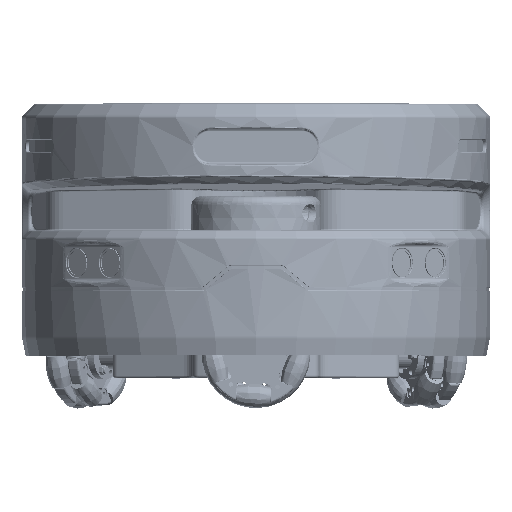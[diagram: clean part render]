
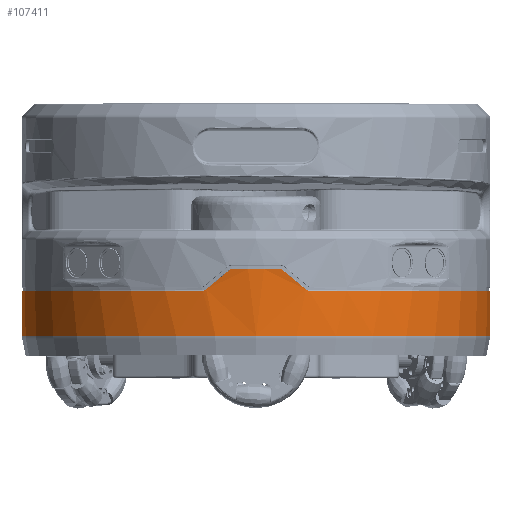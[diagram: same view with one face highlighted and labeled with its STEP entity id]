
A CAD part, top view. The second image highlights one B-rep face of the part: STEP entity #107411.
In plain terms, the highlighted cylindrical face has radius 130 mm (diameter 260 mm), a partial arc.
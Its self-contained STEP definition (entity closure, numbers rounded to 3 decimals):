
#16 = CARTESIAN_POINT ( 'NONE',  ( 28.973, 35.962, -136.731 ) ) ;
#1580 = CARTESIAN_POINT ( 'NONE',  ( 130., 140., -10. ) ) ;
#3205 = DIRECTION ( 'NONE',  ( 0., -1., 0. ) ) ;
#3595 = DIRECTION ( 'NONE',  ( 0., -1., 0. ) ) ;
#5339 = VERTEX_POINT ( 'NONE', #183656 ) ;
#5976 = ORIENTED_EDGE ( 'NONE', *, *, #178640, .T. ) ;
#13644 = CARTESIAN_POINT ( 'NONE',  ( 29.688, 35.9, -136.565 ) ) ;
#18030 = CARTESIAN_POINT ( 'NONE',  ( -13.19, 47.9, -139.329 ) ) ;
#21204 = CIRCLE ( 'NONE', #186558, 130. ) ;
#21350 = DIRECTION ( 'NONE',  ( 1., 0., 0. ) ) ;
#21578 = ORIENTED_EDGE ( 'NONE', *, *, #79940, .T. ) ;
#22169 = DIRECTION ( 'NONE',  ( 0., -1., 0. ) ) ;
#27352 = EDGE_CURVE ( 'NONE', #213831, #201945, #136599, .T. ) ;
#27934 = CIRCLE ( 'NONE', #37007, 130. ) ;
#31535 = CARTESIAN_POINT ( 'NONE',  ( 27.694, 36.625, -137.016 ) ) ;
#32595 = CARTESIAN_POINT ( 'NONE',  ( 27.975, 36.389, -136.955 ) ) ;
#36408 = CARTESIAN_POINT ( 'NONE',  ( -23.517, 40.127, -137.927 ) ) ;
#36630 = ORIENTED_EDGE ( 'NONE', *, *, #143777, .T. ) ;
#37007 = AXIS2_PLACEMENT_3D ( 'NONE', #152076, #3595, #96117 ) ;
#37358 = CARTESIAN_POINT ( 'NONE',  ( 28.289, 36.209, -136.885 ) ) ;
#38850 = ORIENTED_EDGE ( 'NONE', *, *, #61657, .T. ) ;
#40671 = VERTEX_POINT ( 'NONE', #141663 ) ;
#42851 = VERTEX_POINT ( 'NONE', #54451 ) ;
#43138 = ORIENTED_EDGE ( 'NONE', *, *, #195567, .T. ) ;
#45179 = ORIENTED_EDGE ( 'NONE', *, *, #237921, .T. ) ;
#45281 = CARTESIAN_POINT ( 'NONE',  ( -13.19, 47.9, -139.329 ) ) ;
#48510 = CARTESIAN_POINT ( 'NONE',  ( 14.502, 47.609, -139.189 ) ) ;
#54451 = CARTESIAN_POINT ( 'NONE',  ( -130., 35.9, -10. ) ) ;
#55467 = B_SPLINE_CURVE_WITH_KNOTS ( 'NONE', 3,
 ( #233342, #197662, #196074, #48510, #216288, #196870 ),
 .UNSPECIFIED., .F., .F.,
 ( 4, 2, 4 ),
 ( 0., 0.001, 0.002 ),
 .UNSPECIFIED. ) ;
#55675 = CARTESIAN_POINT ( 'NONE',  ( 130., 10.99, -10. ) ) ;
#56664 = CARTESIAN_POINT ( 'NONE',  ( 13.19, 47.9, -139.329 ) ) ;
#57937 = CARTESIAN_POINT ( 'NONE',  ( 130., 35.9, -10. ) ) ;
#61182 = CARTESIAN_POINT ( 'NONE',  ( -130., 140., -10. ) ) ;
#61657 = EDGE_CURVE ( 'NONE', #185332, #205713, #97156, .T. ) ;
#62580 = CARTESIAN_POINT ( 'NONE',  ( -28.288, 36.21, -136.886 ) ) ;
#70517 = DIRECTION ( 'NONE',  ( 0., 0., -1. ) ) ;
#71172 = ORIENTED_EDGE ( 'NONE', *, *, #106914, .T. ) ;
#71883 = ORIENTED_EDGE ( 'NONE', *, *, #27352, .T. ) ;
#73703 = CARTESIAN_POINT ( 'NONE',  ( -27.694, 36.625, -137.016 ) ) ;
#74245 = EDGE_LOOP ( 'NONE', ( #193210, #100865, #21578, #43138, #100923, #45179, #5976, #38850, #71172, #71883, #36630, #173797 ) ) ;
#77750 = EDGE_CURVE ( 'NONE', #42851, #154143, #129551, .T. ) ;
#79940 = EDGE_CURVE ( 'NONE', #40671, #5339, #145863, .T. ) ;
#80124 = VECTOR ( 'NONE', #190938, 1000. ) ;
#82013 = CARTESIAN_POINT ( 'NONE',  ( -27.975, 36.389, -136.955 ) ) ;
#85865 = CARTESIAN_POINT ( 'NONE',  ( 15.056, 47.222, -139.125 ) ) ;
#90792 = CARTESIAN_POINT ( 'NONE',  ( 0., 10.99, -10. ) ) ;
#92242 = CARTESIAN_POINT ( 'NONE',  ( 0., 140., -10. ) ) ;
#96117 = DIRECTION ( 'NONE',  ( 1., 0., 0. ) ) ;
#97156 =( BOUNDED_CURVE ( )  B_SPLINE_CURVE ( 3, ( #85865, #177528, #141834, #31535 ),
 .UNSPECIFIED., .F., .F. ) 
 B_SPLINE_CURVE_WITH_KNOTS ( ( 4, 4 ),
 ( 4.828, 4.927 ),
 .UNSPECIFIED. ) 
 CURVE ( )  GEOMETRIC_REPRESENTATION_ITEM ( )  RATIONAL_B_SPLINE_CURVE ( ( 1., 0.999, 0.999, 1. ) ) 
 REPRESENTATION_ITEM ( '' )  );
#100865 = ORIENTED_EDGE ( 'NONE', *, *, #107649, .T. ) ;
#100923 = ORIENTED_EDGE ( 'NONE', *, *, #216388, .T. ) ;
#100924 = B_SPLINE_CURVE_WITH_KNOTS ( 'NONE', 3,
 ( #164871, #110524, #129166, #108108, #107311, #18030 ),
 .UNSPECIFIED., .F., .F.,
 ( 4, 2, 4 ),
 ( 0., 0.001, 0.002 ),
 .UNSPECIFIED. ) ;
#102371 = CARTESIAN_POINT ( 'NONE',  ( -29.688, 35.9, -136.565 ) ) ;
#104911 = VERTEX_POINT ( 'NONE', #56664 ) ;
#105573 = VERTEX_POINT ( 'NONE', #149266 ) ;
#106914 = EDGE_CURVE ( 'NONE', #205713, #213831, #153605, .T. ) ;
#107311 = CARTESIAN_POINT ( 'NONE',  ( -13.531, 47.9, -139.294 ) ) ;
#107411 = ADVANCED_FACE ( 'NONE', ( #152576 ), #190226, .T. ) ;
#107649 = EDGE_CURVE ( 'NONE', #42851, #40671, #137908, .T. ) ;
#108108 = CARTESIAN_POINT ( 'NONE',  ( -13.863, 47.841, -139.259 ) ) ;
#108676 = DIRECTION ( 'NONE',  ( 0., 1., 0. ) ) ;
#108813 = CARTESIAN_POINT ( 'NONE',  ( 29.688, 35.9, -136.565 ) ) ;
#110524 = CARTESIAN_POINT ( 'NONE',  ( -14.794, 47.441, -139.156 ) ) ;
#117764 = CARTESIAN_POINT ( 'NONE',  ( -28.972, 35.962, -136.731 ) ) ;
#120977 = CARTESIAN_POINT ( 'NONE',  ( -29.325, 35.9, -136.65 ) ) ;
#125079 = CARTESIAN_POINT ( 'NONE',  ( 27.694, 36.625, -137.016 ) ) ;
#128106 = CARTESIAN_POINT ( 'NONE',  ( -15.056, 47.222, -139.125 ) ) ;
#129166 = CARTESIAN_POINT ( 'NONE',  ( -14.503, 47.609, -139.189 ) ) ;
#129551 = LINE ( 'NONE', #61182, #80124 ) ;
#133288 = CARTESIAN_POINT ( 'NONE',  ( 0., 35.9, -10. ) ) ;
#136599 = CIRCLE ( 'NONE', #179825, 130. ) ;
#137908 = CIRCLE ( 'NONE', #177775, 130. ) ;
#141663 = CARTESIAN_POINT ( 'NONE',  ( -29.688, 35.9, -136.565 ) ) ;
#141834 = CARTESIAN_POINT ( 'NONE',  ( 23.517, 40.127, -137.927 ) ) ;
#143777 = EDGE_CURVE ( 'NONE', #201945, #225865, #221411, .T. ) ;
#145863 = B_SPLINE_CURVE_WITH_KNOTS ( 'NONE', 3,
 ( #102371, #120977, #117764, #62580, #82013, #211701 ),
 .UNSPECIFIED., .F., .F.,
 ( 4, 2, 4 ),
 ( 0., 0.001, 0.002 ),
 .UNSPECIFIED. ) ;
#146608 = DIRECTION ( 'NONE',  ( 0., -1., 0. ) ) ;
#149266 = CARTESIAN_POINT ( 'NONE',  ( -15.056, 47.222, -139.125 ) ) ;
#149272 = DIRECTION ( 'NONE',  ( 1., 0., 0. ) ) ;
#152004 = VECTOR ( 'NONE', #221329, 1000. ) ;
#152076 = CARTESIAN_POINT ( 'NONE',  ( 0., 47.9, -10. ) ) ;
#152576 = FACE_OUTER_BOUND ( 'NONE', #74245, .T. ) ;
#153605 = B_SPLINE_CURVE_WITH_KNOTS ( 'NONE', 3,
 ( #125079, #32595, #37358, #16, #222165, #108813 ),
 .UNSPECIFIED., .F., .F.,
 ( 4, 2, 4 ),
 ( 0., 0.001, 0.002 ),
 .UNSPECIFIED. ) ;
#154143 = VERTEX_POINT ( 'NONE', #156834 ) ;
#156834 = CARTESIAN_POINT ( 'NONE',  ( -130., 10.99, -10. ) ) ;
#164871 = CARTESIAN_POINT ( 'NONE',  ( -15.056, 47.222, -139.125 ) ) ;
#173797 = ORIENTED_EDGE ( 'NONE', *, *, #218005, .T. ) ;
#177528 = CARTESIAN_POINT ( 'NONE',  ( 19.301, 43.662, -138.63 ) ) ;
#177775 = AXIS2_PLACEMENT_3D ( 'NONE', #133288, #22169, #21350 ) ;
#178640 = EDGE_CURVE ( 'NONE', #104911, #185332, #55467, .T. ) ;
#179825 = AXIS2_PLACEMENT_3D ( 'NONE', #185718, #3205, #149272 ) ;
#183656 = CARTESIAN_POINT ( 'NONE',  ( -27.694, 36.625, -137.016 ) ) ;
#185332 = VERTEX_POINT ( 'NONE', #239676 ) ;
#185718 = CARTESIAN_POINT ( 'NONE',  ( 0., 35.9, -10. ) ) ;
#186558 = AXIS2_PLACEMENT_3D ( 'NONE', #90792, #108676, #70517 ) ;
#190226 = CYLINDRICAL_SURFACE ( 'NONE', #210331, 130. ) ;
#190938 = DIRECTION ( 'NONE',  ( 0., -1., 0. ) ) ;
#193210 = ORIENTED_EDGE ( 'NONE', *, *, #77750, .F. ) ;
#195567 = EDGE_CURVE ( 'NONE', #5339, #105573, #202675, .T. ) ;
#196074 = CARTESIAN_POINT ( 'NONE',  ( 13.862, 47.842, -139.259 ) ) ;
#196870 = CARTESIAN_POINT ( 'NONE',  ( 15.056, 47.222, -139.125 ) ) ;
#197662 = CARTESIAN_POINT ( 'NONE',  ( 13.531, 47.9, -139.294 ) ) ;
#201593 = CARTESIAN_POINT ( 'NONE',  ( 27.694, 36.625, -137.016 ) ) ;
#201945 = VERTEX_POINT ( 'NONE', #57937 ) ;
#202675 =( BOUNDED_CURVE ( )  B_SPLINE_CURVE ( 3, ( #73703, #36408, #239086, #128106 ),
 .UNSPECIFIED., .F., .F. ) 
 B_SPLINE_CURVE_WITH_KNOTS ( ( 4, 4 ),
 ( 1.356, 1.455 ),
 .UNSPECIFIED. ) 
 CURVE ( )  GEOMETRIC_REPRESENTATION_ITEM ( )  RATIONAL_B_SPLINE_CURVE ( ( 1., 0.999, 0.999, 1. ) ) 
 REPRESENTATION_ITEM ( '' )  );
#205713 = VERTEX_POINT ( 'NONE', #201593 ) ;
#210331 = AXIS2_PLACEMENT_3D ( 'NONE', #92242, #146608, #221868 ) ;
#211701 = CARTESIAN_POINT ( 'NONE',  ( -27.694, 36.625, -137.016 ) ) ;
#213831 = VERTEX_POINT ( 'NONE', #13644 ) ;
#216288 = CARTESIAN_POINT ( 'NONE',  ( 14.794, 47.441, -139.156 ) ) ;
#216388 = EDGE_CURVE ( 'NONE', #105573, #235856, #100924, .T. ) ;
#218005 = EDGE_CURVE ( 'NONE', #225865, #154143, #21204, .T. ) ;
#221329 = DIRECTION ( 'NONE',  ( 0., -1., 0. ) ) ;
#221411 = LINE ( 'NONE', #1580, #152004 ) ;
#221868 = DIRECTION ( 'NONE',  ( 0., 0., -1. ) ) ;
#222165 = CARTESIAN_POINT ( 'NONE',  ( 29.325, 35.9, -136.65 ) ) ;
#225865 = VERTEX_POINT ( 'NONE', #55675 ) ;
#233342 = CARTESIAN_POINT ( 'NONE',  ( 13.19, 47.9, -139.329 ) ) ;
#235856 = VERTEX_POINT ( 'NONE', #45281 ) ;
#237921 = EDGE_CURVE ( 'NONE', #235856, #104911, #27934, .T. ) ;
#239086 = CARTESIAN_POINT ( 'NONE',  ( -19.301, 43.662, -138.63 ) ) ;
#239676 = CARTESIAN_POINT ( 'NONE',  ( 15.056, 47.222, -139.125 ) ) ;
